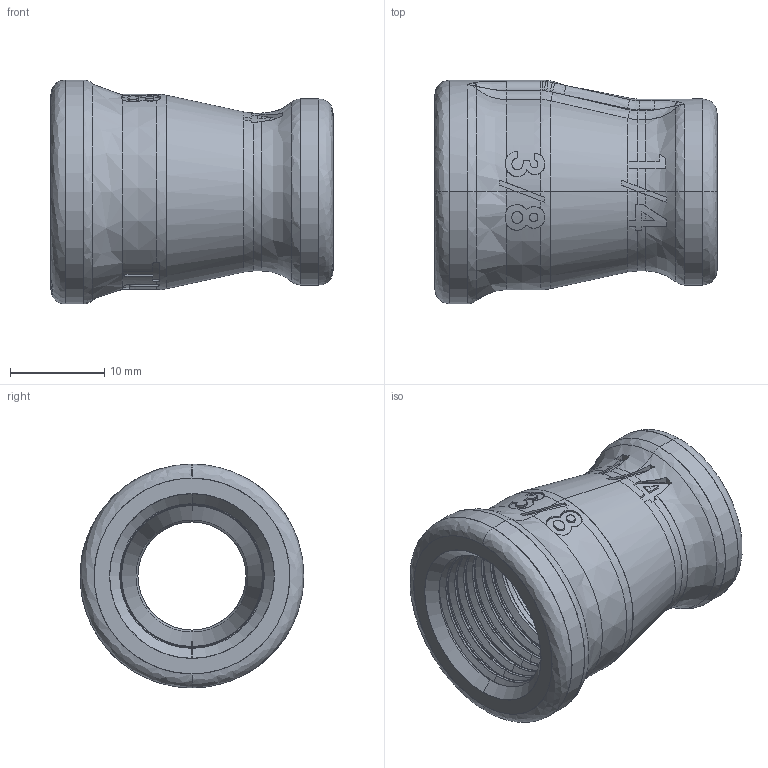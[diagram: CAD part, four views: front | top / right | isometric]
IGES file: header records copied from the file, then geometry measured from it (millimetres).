
Start section: SolidWorks IGES file using analytic representation for surfaces
Global section: file name: C:\Users\Joel Rosa\Desktop\Tubulação\12-32-OK\12-32-023.IGS; native system: SolidWorks 2011; preprocessor: SolidWorks 2011; author: Joel Rosa; date: 121208.223725; units: millimetre
Bounding box: 30 x 23.8 x 23.8 mm (x, y, z)
Surface area: 4291.4 mm2 (no closed solid volume)
Topology: 0 solids, 0 shells, 392 faces, 3489 edges, 3485 vertices
Faces by surface type: bspline 275, revolution 117
